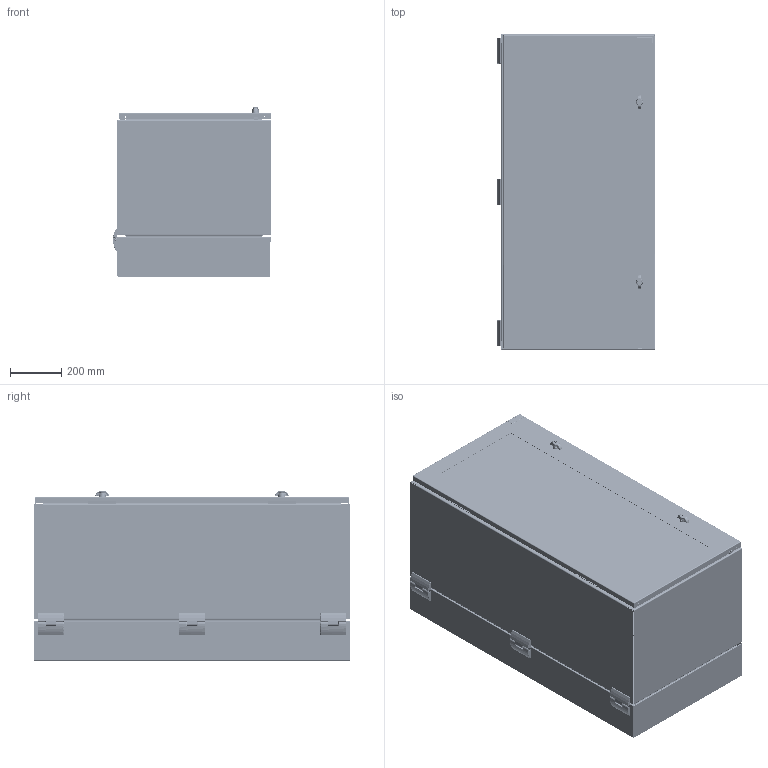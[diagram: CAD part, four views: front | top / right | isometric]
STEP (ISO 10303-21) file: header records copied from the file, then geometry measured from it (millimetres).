
FILE_DESCRIPTION (( 'STEP AP203' ), '1' );
FILE_NAME ('pthw482424g2.STEP', '2011-12-01T18:17:05', ( 'Hoffman User' ), ( 'Hoffman Enclosures' ), 'SwSTEP 2.0', 'SolidWorks 2010', '' );
FILE_SCHEMA (( 'CONFIG_CONTROL_DESIGN' ));
Products named in the file (50): pthw482424g2; 89078335; 89078334; 89060190; 89060191; 89071699_Installed Config; 89079061; 89078337; 89078336; 89066272; 89074728_89060267; 89074726_Compressed wdw gasket; 89074724_89060269; 60127101_60127101; 60100041_60100041; 87931527_87931527; 87931368_SLEEVE; 99401225; 89074727; 89074725_Compressed; 89071927_FOR 16GA; 99407418; 87794349_87794349; 87556213; 87556214; 87922656; 87928600; 64138001; 89066975; 89066980; 89066979_WITH STAKE; 89066976; 89066978; 89066977; 87540581; 87790199; 60127214_601272214; 87790201_87790201; 60127135_Installed postion; 60127199_60127199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
Assembly tree (153 placements, depth 5):
  pthw482424g2
    89079061
      89078337
      99401225  x28
      60100041_60100041  x2
        87931527_87931527
        87931368_SLEEVE
      89066272  x2
      89078336
    89071543_89071543  x3
    89066975  x3
    89060214  x3
    60127214_601272214  x2
      56906712_56906712
      60127199_60127199
      87790201_87790201
      60127135_Installed postion
    89060606_89060606  x2
    89060213  x3
    89066978  x3
      87540581
      89066977
    89078335
      89071699_Installed Config  x7
      89074727
      89078334
      89060191  x2
      89060190  x2
      60100041_60100041
        87931527_87931527
        87931368_SLEEVE
    89066980  x3
      87540581
      89066976
      89066979_WITH STAKE
    89060212  x3
    89070550  x3
      89056327
      89070549
    89074728_89060267
      87922656  x16
      87556214  x2
      89071927_FOR 16GA  x2
      87556213  x4
      99407418  x2
      64138001  x2
      89074726_Compressed wdw gasket
        99401225  x16
        60127101_60127101  x2
        60100041_60100041
          87931527_87931527
          87931368_SLEEVE
        89074724_89060269
        89074725_Compressed
        89074727
      87928600
      87794349_87794349
    87790199  x2
    89072125_87931339  x2
Bounding box: 616 x 1233 x 659.17 mm (x, y, z)
Volume: 11235218.1 mm3; surface area: 10107944 mm2
Topology: 163 solids, 183 shells, 9839 faces, 24364 edges, 14975 vertices
Faces by surface type: plane 4283, cylinder 2904, bspline 1269, cone 821, torus 414, sphere 148
Entity records: 172756 total; most frequent: CARTESIAN_POINT 76302, ORIENTED_EDGE 19134, DIRECTION 17247, EDGE_CURVE 9567, AXIS2_PLACEMENT_3D 6140, VERTEX_POINT 5938, LINE 4967, VECTOR 4967
